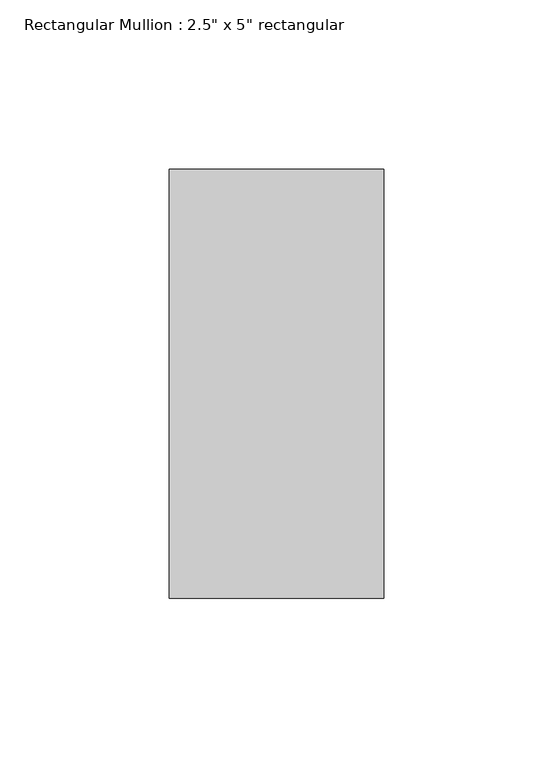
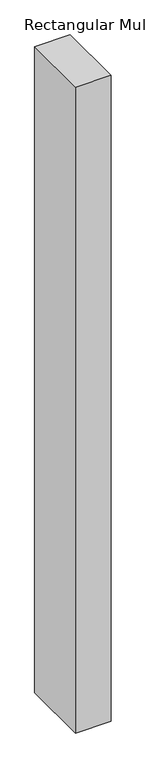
"""IFC4 building model written with IfcOpenShell, lengths in millimetres: member geometry."""

import ifcopenshell
import ifcopenshell.guid

model = None  # the IFC model being written
_history = None  # IfcOwnerHistory: only IFC2X3 demands one
_inside = {}  # id of a spatial element -> (the spatial element, [elements in it])
_under = {}  # id of a project, library or spatial element -> (it, [spatial elements below it])
_declared = {}  # id of a project -> (the project, [libraries it declares])
_typed = {}  # id of a type object -> (the type object, [elements of that type])
_made_of = {}  # id of a material, layer set ... -> (it, [elements and type objects made of it])


def new_model(schema):
    """Start an empty IFC model of exactly this schema.

    Asked for "IFC4X3", IfcOpenShell would pick the latest addendum, in which some entities
    have other attributes; the version numbers below select the first issue.
    IFC2X3 requires an IfcOwnerHistory on every rooted entity: one is made here for all.
    """
    global model, _history
    if schema == "IFC4X3":
        model = ifcopenshell.file(schema_version=(4, 3, 0, 0))
    else:
        model = ifcopenshell.file(schema=schema)
    _inside.clear()
    _under.clear()
    _declared.clear()
    _typed.clear()
    _made_of.clear()
    _history = None
    if model.schema == "IFC2X3":
        org = make("IfcOrganization", Name="unknown")
        user = make(
            "IfcPersonAndOrganization",
            ThePerson=make("IfcPerson", FamilyName="unknown"),
            TheOrganization=org,
        )
        app = make(
            "IfcApplication",
            ApplicationDeveloper=org,
            Version="unknown",
            ApplicationFullName="unknown",
            ApplicationIdentifier="unknown",
        )
        _history = make(
            "IfcOwnerHistory",
            OwningUser=user,
            OwningApplication=app,
            ChangeAction="ADDED",
            CreationDate=0,
        )
    return model


def make(cls, **values):
    """One entity of the class cls with the attributes given. An attribute that is None is left unset."""
    return model.create_entity(
        cls, **{name: value for name, value in values.items() if value is not None}
    )


def rooted(cls, **values):
    """An entity with a GlobalId (a new one), such as an element, a storey or a relation."""
    return make(cls, GlobalId=ifcopenshell.guid.new(), OwnerHistory=_history, **values)


def si_unit(unit_type, name, prefix=None):
    """IfcSIUnit, for example si_unit("LENGTHUNIT", "METRE", prefix="MILLI")."""
    return make("IfcSIUnit", UnitType=unit_type, Prefix=prefix, Name=name)


def assignment(units):
    """IfcUnitAssignment: the units of a project."""
    return None if units is None else make("IfcUnitAssignment", Units=units)


def point(xyz):
    """IfcCartesianPoint."""
    return None if xyz is None else make("IfcCartesianPoint", Coordinates=xyz)


def direction(xyz):
    """IfcDirection."""
    return None if xyz is None else make("IfcDirection", DirectionRatios=xyz)


def frame(location, z_axis=None, x_axis=None):
    """IfcAxis2Placement3D, a coordinate frame: its origin and axes. An axis left out is left unset."""
    return make(
        "IfcAxis2Placement3D",
        Location=point(location),
        Axis=direction(z_axis),
        RefDirection=direction(x_axis),
    )


def origin():
    """The frame at (0, 0, 0) with its axes left unset."""
    return frame((0.0, 0.0, 0.0))


def place(relative_to, where):
    """IfcLocalPlacement: puts the frame where relative to a parent placement (None: the world)."""
    return make(
        "IfcLocalPlacement", PlacementRelTo=relative_to, RelativePlacement=where
    )


def context(
    kind, dimensions, precision=None, world=None, true_north=None, identifier=None
):
    """IfcGeometricRepresentationContext, for example the 3D "Model" context."""
    return make(
        "IfcGeometricRepresentationContext",
        ContextIdentifier=identifier,
        ContextType=kind,
        CoordinateSpaceDimension=dimensions,
        Precision=precision,
        WorldCoordinateSystem=world,
        TrueNorth=true_north,
    )


def project(units=None, contexts=None):
    """IfcProject with its units and contexts."""
    return rooted(
        "IfcProject",
        Name="project",
        RepresentationContexts=contexts,
        UnitsInContext=assignment(units),
    )


def spatial(cls, under=None, at=None, **own):
    """A site, building, storey or space (cls), placed at a placement, below another one or the project."""
    s = rooted(cls, ObjectPlacement=at, **own)
    if under is not None:
        _under.setdefault(under.id(), (under, []))[1].append(s)
    return s


def polyline(points):
    """IfcPolyline through the points."""
    return make("IfcPolyline", Points=[point(p) for p in points])


def outline(outer, holes=None, kind="AREA"):
    """IfcArbitraryClosedProfileDef: a profile drawn as a closed curve; with holes, ...WithVoids."""
    if holes is None:
        return make("IfcArbitraryClosedProfileDef", ProfileType=kind, OuterCurve=outer)
    return make(
        "IfcArbitraryProfileDefWithVoids",
        ProfileType=kind,
        OuterCurve=outer,
        InnerCurves=holes,
    )


def extrude(swept, where, along, depth):
    """IfcExtrudedAreaSolid: the profile swept, set in the frame where, extruded along a direction by depth."""
    return make(
        "IfcExtrudedAreaSolid",
        SweptArea=swept,
        Position=where,
        ExtrudedDirection=direction(along),
        Depth=depth,
    )


def shape(context_of_items, identifier, shape_type, items):
    """IfcShapeRepresentation: the items that make up one representation, for example the "Body"."""
    return make(
        "IfcShapeRepresentation",
        ContextOfItems=context_of_items,
        RepresentationIdentifier=identifier,
        RepresentationType=shape_type,
        Items=items,
    )


def source(mapping_origin, context_of_items, identifier, shape_type, items):
    """IfcRepresentationMap: a shape defined once, which mapped items show again and again."""
    return make(
        "IfcRepresentationMap",
        MappingOrigin=mapping_origin,
        MappedRepresentation=shape(context_of_items, identifier, shape_type, items),
    )


def transform(
    local_origin,
    x_axis=None,
    y_axis=None,
    z_axis=None,
    scale=None,
    scale2=None,
    scale3=None,
    uniform=True,
):
    """IfcCartesianTransformationOperator3D, or its non-uniform kind. x_axis, y_axis, z_axis: its Axis1, 2, 3."""
    if uniform:
        return make(
            "IfcCartesianTransformationOperator3D",
            Axis1=direction(x_axis),
            Axis2=direction(y_axis),
            LocalOrigin=point(local_origin),
            Scale=scale,
            Axis3=direction(z_axis),
        )
    return make(
        "IfcCartesianTransformationOperator3DnonUniform",
        Axis1=direction(x_axis),
        Axis2=direction(y_axis),
        LocalOrigin=point(local_origin),
        Scale=scale,
        Axis3=direction(z_axis),
        Scale2=scale2,
        Scale3=scale3,
    )


def mapped(mapping_source, mapping_target):
    """IfcMappedItem: shows the shape of a source again, moved by a transform."""
    return make(
        "IfcMappedItem", MappingSource=mapping_source, MappingTarget=mapping_target
    )


def made_of(thing, what):
    """Note that an element or type object is made of a material, layer set ...; save() writes the relation."""
    if what is not None:
        _made_of.setdefault(what.id(), (what, []))[1].append(thing)
    return thing


def element(
    cls,
    number,
    at=None,
    inside=None,
    cuts=None,
    type_object=None,
    material=None,
    context=None,
    identifier="Body",
    shape_type=None,
    held_by="IfcProductDefinitionShape",
    body=None,
    shapes=None,
    **own,
):
    """One element of the class cls, such as IfcWall. Its Tag is "e" and its number.

    at: its placement. inside: the storey or other place that contains it. cuts: it is an
    opening in that element (IfcRelVoidsElement). A single representation is given by context,
    identifier, shape_type and body (its items); several are given by shapes. held_by: the class
    of the entity that holds the representations. save() writes the other relations.
    """
    e = rooted(cls, Tag="e%d" % number, ObjectPlacement=at, **own)
    if body is not None:
        shapes = [shape(context, identifier, shape_type, body)]
    if shapes is not None:
        e.Representation = make(held_by, Representations=shapes)
    if inside is not None:
        _inside.setdefault(inside.id(), (inside, []))[1].append(e)
    if cuts is not None:
        rooted(
            "IfcRelVoidsElement", RelatingBuildingElement=cuts, RelatedOpeningElement=e
        )
    if type_object is not None:
        _typed.setdefault(type_object.id(), (type_object, []))[1].append(e)
    return made_of(e, material)


def aggregate(whole, parts):
    """IfcRelAggregates: a whole, such as a stair, and the parts it consists of."""
    return rooted("IfcRelAggregates", RelatingObject=whole, RelatedObjects=parts)


def save(model, path):
    """Write the relations noted so far, then the file.

    IfcRelAggregates (storeys below a building ...), IfcRelContainedInSpatialStructure (elements
    in a storey), IfcRelDefinesByType, IfcRelAssociatesMaterial and IfcRelDeclares: one each for
    every whole, place, type object, material and project.
    """
    for whole, parts in _under.values():
        aggregate(whole, parts)
    for where, things in _inside.values():
        rooted(
            "IfcRelContainedInSpatialStructure",
            RelatedElements=things,
            RelatingStructure=where,
        )
    for kind, things in _typed.values():
        rooted("IfcRelDefinesByType", RelatedObjects=things, RelatingType=kind)
    for what, things in _made_of.values():
        rooted("IfcRelAssociatesMaterial", RelatedObjects=things, RelatingMaterial=what)
    for by, libraries in _declared.values():
        rooted("IfcRelDeclares", RelatingContext=by, RelatedDefinitions=libraries)
    model.write(path)


def member_9771a04b(model_context):
    return source(origin(), model_context, "Body", "SweptSolid", [
        extrude(outline(polyline([(0.0, 63.5), (0.0, -63.5), (-63.5, -63.5), (-63.5, 63.5), (0.0, 63.5)])), frame((0.0, 0.0, -1225.55), z_axis=(0.0, 0.0, 1.0), x_axis=(1.0, 0.0, 0.0)), (0.0, 0.0, 1.0), 1225.55),
    ])


if __name__ == "__main__":
    model = new_model("IFC4")
    model_context = context("Model", 3, world=origin())
    ifc_project = project(units=[si_unit("LENGTHUNIT", "METRE", prefix="MILLI")], contexts=[model_context])
    site = spatial("IfcSite", under=ifc_project)
    building = spatial("IfcBuilding", under=site)
    placement = place(None, origin())
    member_shape = member_9771a04b(model_context)
    element("IfcMember", 1, ObjectType="Rectangular Mullion : 2.5\" x 5\" rectangular", at=placement, inside=building, context=model_context, shape_type="MappedRepresentation", body=[
        mapped(member_shape, transform((0.0, 0.0, 0.0), x_axis=(1.0, 0.0, 0.0), y_axis=(0.0, 1.0, 0.0), z_axis=(0.0, 0.0, 1.0))),
    ])
    save(model, "model.ifc")
